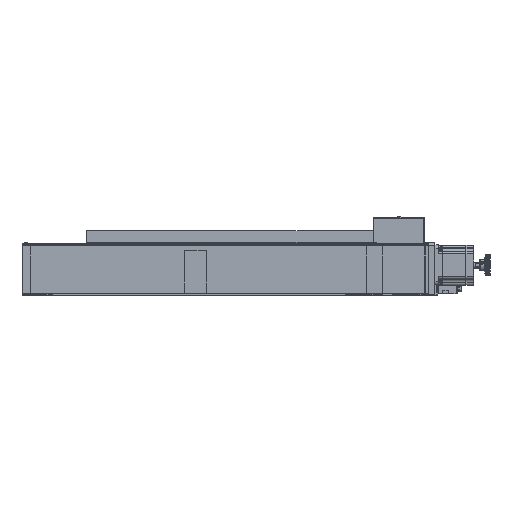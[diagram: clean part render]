
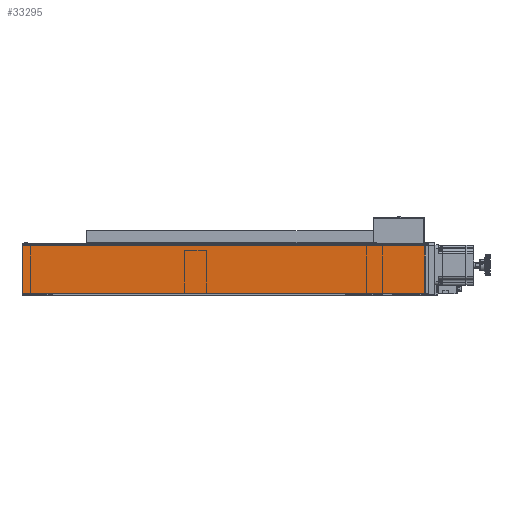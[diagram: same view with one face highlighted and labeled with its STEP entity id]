
A CAD part, top view. The second image highlights one B-rep face of the part: STEP entity #33295.
In plain terms, the highlighted planar face has unit normal (0, 0, 1).
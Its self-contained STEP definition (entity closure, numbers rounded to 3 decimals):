
#1745 = FACE_OUTER_BOUND ( 'NONE', #10419, .T. ) ;
#6978 = ORIENTED_EDGE ( 'NONE', *, *, #9364, .F. ) ;
#6979 = ORIENTED_EDGE ( 'NONE', *, *, #9367, .T. ) ;
#6980 = ORIENTED_EDGE ( 'NONE', *, *, #9366, .T. ) ;
#6981 = ORIENTED_EDGE ( 'NONE', *, *, #9365, .F. ) ;
#9364 = EDGE_CURVE ( 'NONE', #20725, #20734, #40185, .T. ) ;
#9365 = EDGE_CURVE ( 'NONE', #20732, #20725, #40187, .T. ) ;
#9366 = EDGE_CURVE ( 'NONE', #20732, #54831, #40183, .T. ) ;
#9367 = EDGE_CURVE ( 'NONE', #54831, #20734, #40191, .T. ) ;
#10419 = EDGE_LOOP ( 'NONE', ( #6981, #6980, #6979, #6978 ) ) ;
#20725 = VERTEX_POINT ( 'NONE', #22800 ) ;
#20732 = VERTEX_POINT ( 'NONE', #22818 ) ;
#20734 = VERTEX_POINT ( 'NONE', #22819 ) ;
#22800 = CARTESIAN_POINT ( 'NONE',  ( 256.524, -38.396, 391. ) ) ;
#22818 = CARTESIAN_POINT ( 'NONE',  ( 256.524, 29.604, 391. ) ) ;
#22819 = CARTESIAN_POINT ( 'NONE',  ( -310.476, -38.396, 391. ) ) ;
#33295 = ADVANCED_FACE ( 'NONE', ( #1745 ), #35167, .F. ) ;
#33692 = AXIS2_PLACEMENT_3D ( 'NONE', #35153, #35171, #35172 ) ;
#35153 = CARTESIAN_POINT ( 'NONE',  ( 256.524, -38.396, 391. ) ) ;
#35167 = PLANE ( 'NONE',  #33692 ) ;
#35171 = DIRECTION ( 'NONE',  ( 0., 0., -1. ) ) ;
#35172 = DIRECTION ( 'NONE',  ( -1., 0., 0. ) ) ;
#40183 = LINE ( 'NONE', #41281, #40192 ) ;
#40185 = LINE ( 'NONE', #41291, #40188 ) ;
#40187 = LINE ( 'NONE', #41293, #40190 ) ;
#40188 = VECTOR ( 'NONE', #41292, 1000. ) ;
#40190 = VECTOR ( 'NONE', #41295, 1000. ) ;
#40191 = LINE ( 'NONE', #41297, #40194 ) ;
#40192 = VECTOR ( 'NONE', #41296, 1000. ) ;
#40194 = VECTOR ( 'NONE', #41298, 1000. ) ;
#41281 = CARTESIAN_POINT ( 'NONE',  ( 256.524, 29.604, 391. ) ) ;
#41291 = CARTESIAN_POINT ( 'NONE',  ( 256.524, -38.396, 391. ) ) ;
#41292 = DIRECTION ( 'NONE',  ( -1., 0., 0. ) ) ;
#41293 = CARTESIAN_POINT ( 'NONE',  ( 256.524, -38.396, 391. ) ) ;
#41295 = DIRECTION ( 'NONE',  ( 0., -1., 0. ) ) ;
#41296 = DIRECTION ( 'NONE',  ( -1., 0., 0. ) ) ;
#41297 = CARTESIAN_POINT ( 'NONE',  ( -310.476, -38.396, 391. ) ) ;
#41298 = DIRECTION ( 'NONE',  ( 0., -1., 0. ) ) ;
#52905 = CARTESIAN_POINT ( 'NONE',  ( -310.476, 29.604, 391. ) ) ;
#54831 = VERTEX_POINT ( 'NONE', #52905 ) ;
